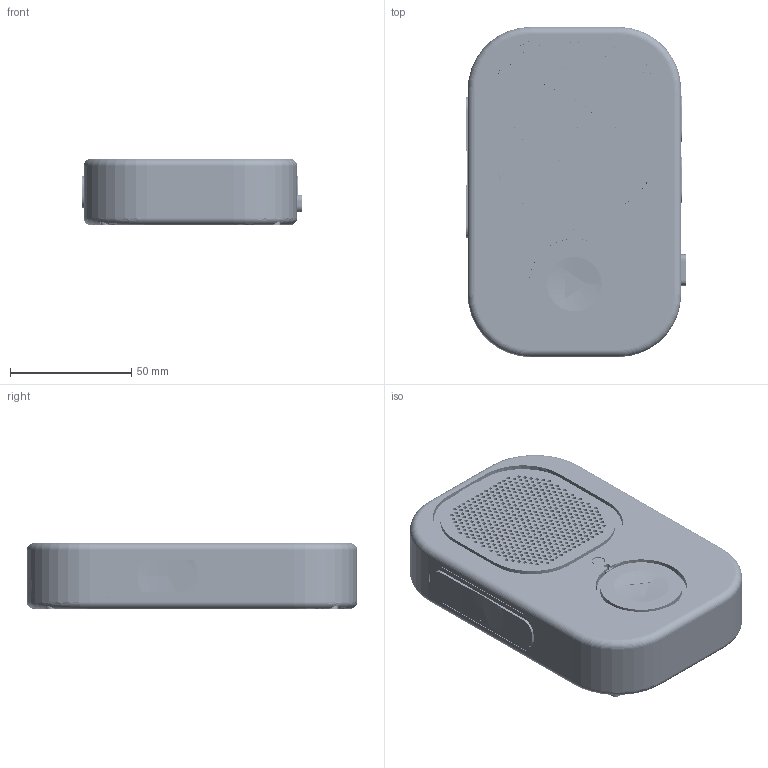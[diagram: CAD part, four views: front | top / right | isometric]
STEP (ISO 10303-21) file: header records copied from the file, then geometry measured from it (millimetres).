
FILE_DESCRIPTION(('Open CASCADE Model'),'2;1');
FILE_NAME('Open CASCADE Shape Model','2026-09-09T12:58:11',('Author'),( 'Open CASCADE'),'Open CASCADE STEP processor 7.9','Open CASCADE 7.9' ,'Unknown');
FILE_SCHEMA(('AUTOMOTIVE_DESIGN { 1 0 10303 214 1 1 1 1 }'));
Length unit declared in the file: millimetre
Products named in the file (63): Walkie One 5.2 SR2 Reference Assembly; 01_front_structural_tub_SR2; 02_rear_structural_cover_SR2; 07_speaker_edge_cradle_SR2; 08_speaker_front_gasket; 09_battery_tray; 10_ptt_key; 10_volume_minus_key; 10_volume_plus_key; 11_ptt_bumper_collar; 11_volume_minus_bumper_collar; 11_volume_plus_bumper_collar; 13_circular_play_key; 15_front_switch_holder_SR2; 16_rgb_led_support_ring; 17_microphone_cradle; 18_microphone_acoustic_gasket; 21_ptt_grip_pad; 21_volume_minus_grip_pad; 21_volume_plus_grip_pad; 27_offset_status_light_guide_SR2; 28_acoustic_mesh; 29_microphone_PSA; 30_optical_support_pad_1; 30_optical_support_pad_2; 31_play_seat_shim_1; 31_play_seat_shim_2; 32_play_stop_shim; 33_PCB_COMPLIANT_PRELOAD_PADS; 34_BATTERY_XY_COMPLIANT_PADS; 35_BATTERY_FRONT_COMPLIANT_PADS; 36_SPEAKER_REAR_CLAMP; 37_SPEAKER_MAGNET_PRELOAD_PAD; 38_LTE_NONMETALLIC_RETAINER_FRAME; FRONT_SWITCH_CORNER_KEEPER_-1; FRONT_SWITCH_CORNER_KEEPER_1; PTT_SWITCH_REAR_KEEPER; VOLUME_DOWN_SWITCH_REAR_KEEPER; VOLUME_UP_SWITCH_REAR_KEEPER; FRONT_CASSETTE_MOUNT_M2x5_-24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
Assembly tree (62 placements, depth 2):
  Walkie One 5.2 SR2 Reference Assembly
    01_front_structural_tub_SR2
    02_rear_structural_cover_SR2
    07_speaker_edge_cradle_SR2
    08_speaker_front_gasket
    09_battery_tray
    10_ptt_key
    10_volume_minus_key
    10_volume_plus_key
    11_ptt_bumper_collar
    11_volume_minus_bumper_collar
    11_volume_plus_bumper_collar
    13_circular_play_key
    15_front_switch_holder_SR2
    16_rgb_led_support_ring
    17_microphone_cradle
    18_microphone_acoustic_gasket
    21_ptt_grip_pad
    21_volume_minus_grip_pad
    21_volume_plus_grip_pad
    27_offset_status_light_guide_SR2
    28_acoustic_mesh
    29_microphone_PSA
    30_optical_support_pad_1
    30_optical_support_pad_2
    31_play_seat_shim_1
    31_play_seat_shim_2
    32_play_stop_shim
    33_PCB_COMPLIANT_PRELOAD_PADS
    34_BATTERY_XY_COMPLIANT_PADS
    35_BATTERY_FRONT_COMPLIANT_PADS
    36_SPEAKER_REAR_CLAMP
    37_SPEAKER_MAGNET_PRELOAD_PAD
    38_LTE_NONMETALLIC_RETAINER_FRAME
    FRONT_SWITCH_CORNER_KEEPER_-1
    FRONT_SWITCH_CORNER_KEEPER_1
    PTT_SWITCH_REAR_KEEPER
    VOLUME_DOWN_SWITCH_REAR_KEEPER
    VOLUME_UP_SWITCH_REAR_KEEPER
    FRONT_CASSETTE_MOUNT_M2x5_-24
    FRONT_CASSETTE_MOUNT_M2x5_24
    FRONT_KEEPER_M2x5_LOW_HEAD_-1
    FRONT_KEEPER_M2x5_LOW_HEAD_1
    FRONT_OMRON_B3F4000
    PTT_KEEPER_M2x6_1
    PTT_KEEPER_M2x6_2
    PTT_OMRON_B3F3150
    REF_Adafruit3421_mic
    REF_Kingbright_RGB_LED
    REF_battery_body_and_protection
    REF_lte_flex_body
    REF_speaker_body_and_mounting_ears
    REF_supplied_PCB_placed
    VOLUME_DOWN_KEEPER_M2x6_1
    VOLUME_DOWN_KEEPER_M2x6_2
    VOLUME_DOWN_OMRON_B3F3150
    VOLUME_UP_KEEPER_M2x6_1
    VOLUME_UP_KEEPER_M2x6_2
    VOLUME_UP_OMRON_B3F3150
    M2_NYLON_LTE_FRAME_SCREWS_4X
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Bounding box: 90.7 x 136 x 27.2 mm (x, y, z)
Volume: 132953.1 mm3; surface area: 154940.6 mm2
Topology: 422 solids, 1789 shells, 25349 faces, 59794 edges, 36698 vertices
Faces by surface type: plane 20521, cylinder 3162, bspline 1534, torus 70, sphere 32, cone 30
Full cylindrical faces by diameter (mm): 0.3 x61, 0.375 x1, 0.5 x1, 0.6 x4, 0.75 x4, 0.813 x5, 0.9 x8, 1 x16, 1.5 x6, 1.6 x483, 1.7 x10, 1.8 x1, 1.96 x10, 2 x11, 2.2 x20, 3.5 x2, 3.7 x14, 4 x4, 4.4 x4, 5 x3, 5.2 x1, 5.3 x3, 5.5 x1, 6 x2, 6.2 x2, 7 x1, 15 x1, 34 x1, 36.4 x2, 39.6 x1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
Entity records: 1517514 total; most frequent: CARTESIAN_POINT 363193, DIRECTION 205045, LINE 140559, VECTOR 140559, ORIENTED_EDGE 110477, PCURVE 110477, DEFINITIONAL_REPRESENTATION 110477, EDGE_CURVE 59749
